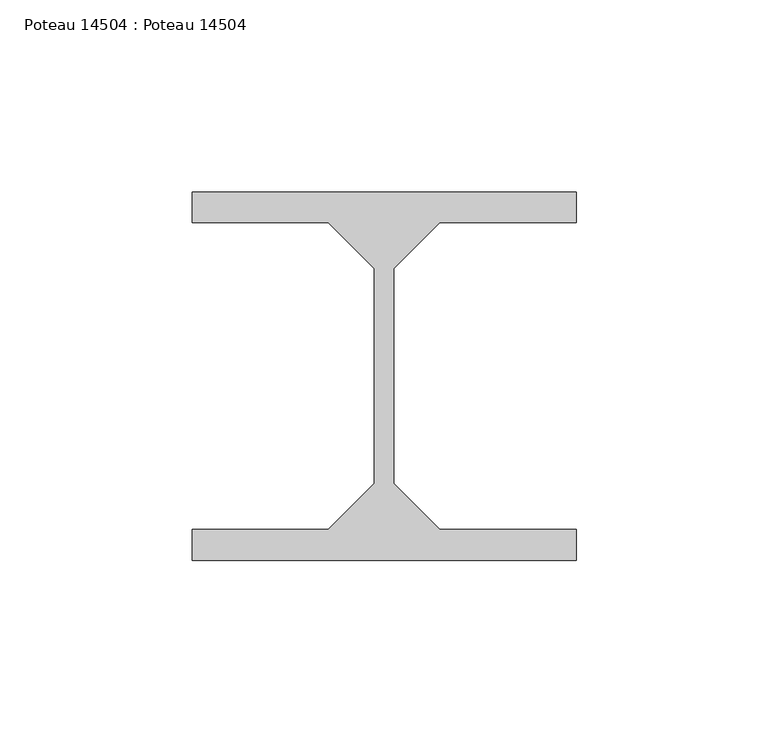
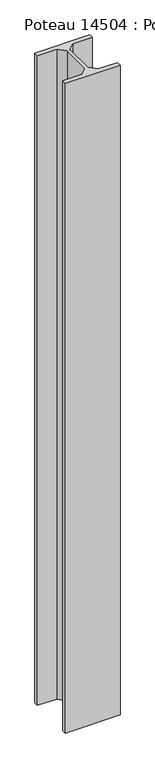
"""IFC4 building model written with IfcOpenShell, lengths in millimetres: beam geometry, Poteau 14504 : Poteau 14504."""

import ifcopenshell
import ifcopenshell.guid

model = None  # the IFC model being written
_history = None  # IfcOwnerHistory: only IFC2X3 demands one
_inside = {}  # id of a spatial element -> (the spatial element, [elements in it])
_under = {}  # id of a project, library or spatial element -> (it, [spatial elements below it])
_declared = {}  # id of a project -> (the project, [libraries it declares])
_typed = {}  # id of a type object -> (the type object, [elements of that type])
_made_of = {}  # id of a material, layer set ... -> (it, [elements and type objects made of it])


def new_model(schema):
    """Start an empty IFC model of exactly this schema.

    Asked for "IFC4X3", IfcOpenShell would pick the latest addendum, in which some entities
    have other attributes; the version numbers below select the first issue.
    IFC2X3 requires an IfcOwnerHistory on every rooted entity: one is made here for all.
    """
    global model, _history
    if schema == "IFC4X3":
        model = ifcopenshell.file(schema_version=(4, 3, 0, 0))
    else:
        model = ifcopenshell.file(schema=schema)
    _inside.clear()
    _under.clear()
    _declared.clear()
    _typed.clear()
    _made_of.clear()
    _history = None
    if model.schema == "IFC2X3":
        org = make("IfcOrganization", Name="unknown")
        user = make(
            "IfcPersonAndOrganization",
            ThePerson=make("IfcPerson", FamilyName="unknown"),
            TheOrganization=org,
        )
        app = make(
            "IfcApplication",
            ApplicationDeveloper=org,
            Version="unknown",
            ApplicationFullName="unknown",
            ApplicationIdentifier="unknown",
        )
        _history = make(
            "IfcOwnerHistory",
            OwningUser=user,
            OwningApplication=app,
            ChangeAction="ADDED",
            CreationDate=0,
        )
    return model


def make(cls, **values):
    """One entity of the class cls with the attributes given. An attribute that is None is left unset."""
    return model.create_entity(
        cls, **{name: value for name, value in values.items() if value is not None}
    )


def rooted(cls, **values):
    """An entity with a GlobalId (a new one), such as an element, a storey or a relation."""
    return make(cls, GlobalId=ifcopenshell.guid.new(), OwnerHistory=_history, **values)


def si_unit(unit_type, name, prefix=None):
    """IfcSIUnit, for example si_unit("LENGTHUNIT", "METRE", prefix="MILLI")."""
    return make("IfcSIUnit", UnitType=unit_type, Prefix=prefix, Name=name)


def assignment(units):
    """IfcUnitAssignment: the units of a project."""
    return None if units is None else make("IfcUnitAssignment", Units=units)


def point(xyz):
    """IfcCartesianPoint."""
    return None if xyz is None else make("IfcCartesianPoint", Coordinates=xyz)


def direction(xyz):
    """IfcDirection."""
    return None if xyz is None else make("IfcDirection", DirectionRatios=xyz)


def frame(location, z_axis=None, x_axis=None):
    """IfcAxis2Placement3D, a coordinate frame: its origin and axes. An axis left out is left unset."""
    return make(
        "IfcAxis2Placement3D",
        Location=point(location),
        Axis=direction(z_axis),
        RefDirection=direction(x_axis),
    )


def origin():
    """The frame at (0, 0, 0) with its axes left unset."""
    return frame((0.0, 0.0, 0.0))


def place(relative_to, where):
    """IfcLocalPlacement: puts the frame where relative to a parent placement (None: the world)."""
    return make(
        "IfcLocalPlacement", PlacementRelTo=relative_to, RelativePlacement=where
    )


def context(
    kind, dimensions, precision=None, world=None, true_north=None, identifier=None
):
    """IfcGeometricRepresentationContext, for example the 3D "Model" context."""
    return make(
        "IfcGeometricRepresentationContext",
        ContextIdentifier=identifier,
        ContextType=kind,
        CoordinateSpaceDimension=dimensions,
        Precision=precision,
        WorldCoordinateSystem=world,
        TrueNorth=true_north,
    )


def project(units=None, contexts=None):
    """IfcProject with its units and contexts."""
    return rooted(
        "IfcProject",
        Name="project",
        RepresentationContexts=contexts,
        UnitsInContext=assignment(units),
    )


def spatial(cls, under=None, at=None, **own):
    """A site, building, storey or space (cls), placed at a placement, below another one or the project."""
    s = rooted(cls, ObjectPlacement=at, **own)
    if under is not None:
        _under.setdefault(under.id(), (under, []))[1].append(s)
    return s


def polyline(points):
    """IfcPolyline through the points."""
    return make("IfcPolyline", Points=[point(p) for p in points])


def outline(outer, holes=None, kind="AREA"):
    """IfcArbitraryClosedProfileDef: a profile drawn as a closed curve; with holes, ...WithVoids."""
    if holes is None:
        return make("IfcArbitraryClosedProfileDef", ProfileType=kind, OuterCurve=outer)
    return make(
        "IfcArbitraryProfileDefWithVoids",
        ProfileType=kind,
        OuterCurve=outer,
        InnerCurves=holes,
    )


def extrude(swept, where, along, depth):
    """IfcExtrudedAreaSolid: the profile swept, set in the frame where, extruded along a direction by depth."""
    return make(
        "IfcExtrudedAreaSolid",
        SweptArea=swept,
        Position=where,
        ExtrudedDirection=direction(along),
        Depth=depth,
    )


def shape(context_of_items, identifier, shape_type, items):
    """IfcShapeRepresentation: the items that make up one representation, for example the "Body"."""
    return make(
        "IfcShapeRepresentation",
        ContextOfItems=context_of_items,
        RepresentationIdentifier=identifier,
        RepresentationType=shape_type,
        Items=items,
    )


def source(mapping_origin, context_of_items, identifier, shape_type, items):
    """IfcRepresentationMap: a shape defined once, which mapped items show again and again."""
    return make(
        "IfcRepresentationMap",
        MappingOrigin=mapping_origin,
        MappedRepresentation=shape(context_of_items, identifier, shape_type, items),
    )


def transform(
    local_origin,
    x_axis=None,
    y_axis=None,
    z_axis=None,
    scale=None,
    scale2=None,
    scale3=None,
    uniform=True,
):
    """IfcCartesianTransformationOperator3D, or its non-uniform kind. x_axis, y_axis, z_axis: its Axis1, 2, 3."""
    if uniform:
        return make(
            "IfcCartesianTransformationOperator3D",
            Axis1=direction(x_axis),
            Axis2=direction(y_axis),
            LocalOrigin=point(local_origin),
            Scale=scale,
            Axis3=direction(z_axis),
        )
    return make(
        "IfcCartesianTransformationOperator3DnonUniform",
        Axis1=direction(x_axis),
        Axis2=direction(y_axis),
        LocalOrigin=point(local_origin),
        Scale=scale,
        Axis3=direction(z_axis),
        Scale2=scale2,
        Scale3=scale3,
    )


def mapped(mapping_source, mapping_target):
    """IfcMappedItem: shows the shape of a source again, moved by a transform."""
    return make(
        "IfcMappedItem", MappingSource=mapping_source, MappingTarget=mapping_target
    )


def made_of(thing, what):
    """Note that an element or type object is made of a material, layer set ...; save() writes the relation."""
    if what is not None:
        _made_of.setdefault(what.id(), (what, []))[1].append(thing)
    return thing


def element(
    cls,
    number,
    at=None,
    inside=None,
    cuts=None,
    type_object=None,
    material=None,
    context=None,
    identifier="Body",
    shape_type=None,
    held_by="IfcProductDefinitionShape",
    body=None,
    shapes=None,
    **own,
):
    """One element of the class cls, such as IfcWall. Its Tag is "e" and its number.

    at: its placement. inside: the storey or other place that contains it. cuts: it is an
    opening in that element (IfcRelVoidsElement). A single representation is given by context,
    identifier, shape_type and body (its items); several are given by shapes. held_by: the class
    of the entity that holds the representations. save() writes the other relations.
    """
    e = rooted(cls, Tag="e%d" % number, ObjectPlacement=at, **own)
    if body is not None:
        shapes = [shape(context, identifier, shape_type, body)]
    if shapes is not None:
        e.Representation = make(held_by, Representations=shapes)
    if inside is not None:
        _inside.setdefault(inside.id(), (inside, []))[1].append(e)
    if cuts is not None:
        rooted(
            "IfcRelVoidsElement", RelatingBuildingElement=cuts, RelatedOpeningElement=e
        )
    if type_object is not None:
        _typed.setdefault(type_object.id(), (type_object, []))[1].append(e)
    return made_of(e, material)


def aggregate(whole, parts):
    """IfcRelAggregates: a whole, such as a stair, and the parts it consists of."""
    return rooted("IfcRelAggregates", RelatingObject=whole, RelatedObjects=parts)


def save(model, path):
    """Write the relations noted so far, then the file.

    IfcRelAggregates (storeys below a building ...), IfcRelContainedInSpatialStructure (elements
    in a storey), IfcRelDefinesByType, IfcRelAssociatesMaterial and IfcRelDeclares: one each for
    every whole, place, type object, material and project.
    """
    for whole, parts in _under.values():
        aggregate(whole, parts)
    for where, things in _inside.values():
        rooted(
            "IfcRelContainedInSpatialStructure",
            RelatedElements=things,
            RelatingStructure=where,
        )
    for kind, things in _typed.values():
        rooted("IfcRelDefinesByType", RelatedObjects=things, RelatingType=kind)
    for what, things in _made_of.values():
        rooted("IfcRelAssociatesMaterial", RelatedObjects=things, RelatingMaterial=what)
    for by, libraries in _declared.values():
        rooted("IfcRelDeclares", RelatingContext=by, RelatedDefinitions=libraries)
    model.write(path)


def poteau_14504_poteau_14504_7839164f(model_context):
    return source(origin(), model_context, "Body", "SweptSolid", [
        extrude(outline(polyline([(7554.9999999, -1.0), (7554.9999999, 7.0), (7590.4999999, 7.0), (7602.4999999, 19.0), (7602.4999999, 75.0), (7590.4999999, 87.0), (7554.9999999, 87.0), (7554.9999999, 95.0), (7654.9999999, 95.0), (7654.9999999, 87.0), (7619.4999999, 87.0), (7607.4999999, 75.0), (7607.4999999, 19.0), (7619.4999999, 7.0), (7654.9999999, 7.0), (7654.9999999, -1.0), (7554.9999999, -1.0)])), frame((0.0, 0.0, 7195.0759819), z_axis=(0.0, 0.0, 1.0), x_axis=(1.0, 0.0, 0.0)), (0.0, 0.0, 1.0), 1254.9240181),
    ])


if __name__ == "__main__":
    model = new_model("IFC4")
    model_context = context("Model", 3, world=origin())
    ifc_project = project(units=[si_unit("LENGTHUNIT", "METRE", prefix="MILLI")], contexts=[model_context])
    site = spatial("IfcSite", under=ifc_project)
    building = spatial("IfcBuilding", under=site)
    placement = place(None, origin())
    poteau_14504_poteau_14504_shape = poteau_14504_poteau_14504_7839164f(model_context)
    element("IfcBeam", 1, ObjectType="Poteau 14504 : Poteau 14504", at=placement, inside=building, context=model_context, shape_type="MappedRepresentation", body=[
        mapped(poteau_14504_poteau_14504_shape, transform((0.0, 0.0, 0.0), x_axis=(1.0, 0.0, 0.0), y_axis=(0.0, 1.0, 0.0), z_axis=(0.0, 0.0, 1.0))),
    ])
    save(model, "model.ifc")
